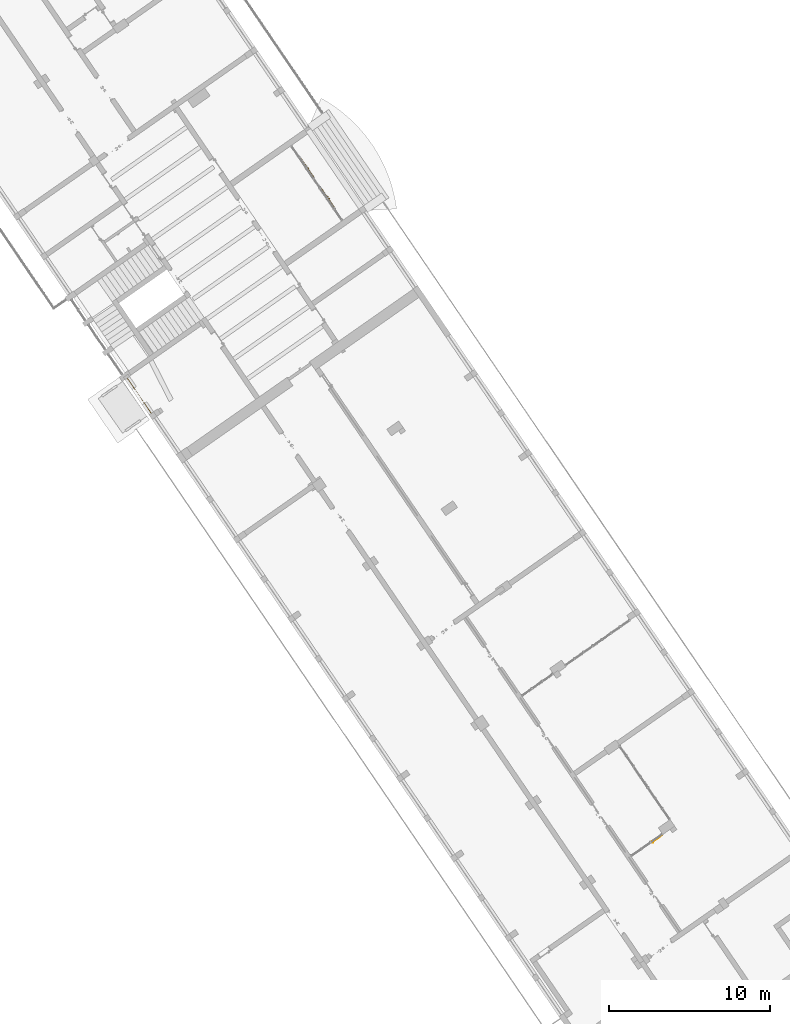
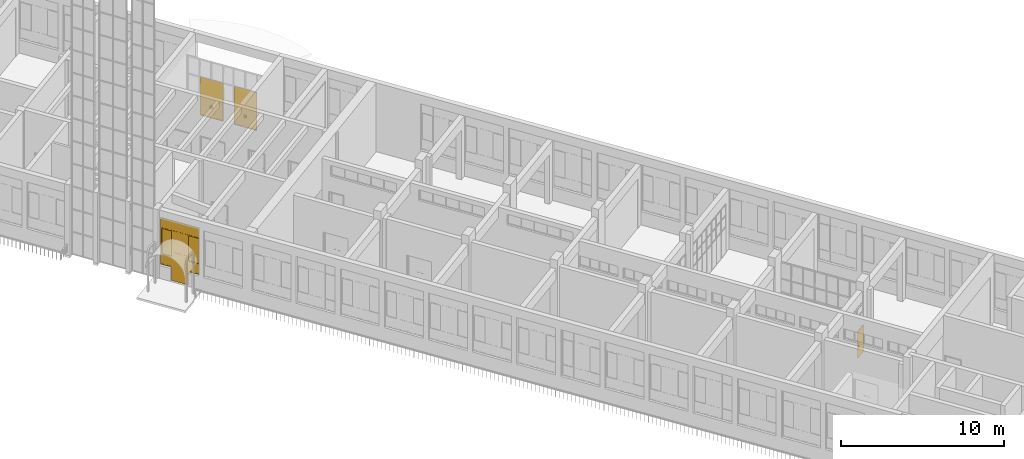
# One storey, part 154 of 157: 3 doors, 1 window, 2 elements without a shape of their own.
"""IFC2X3 building model written with IfcOpenShell, lengths in millimetres."""

from ifc_helpers import new_model, entity, si_unit, converted_unit, derived_unit, direction, frame, frame_2d, origin, origin_2d_with_axis, place, context, subcontext, project, spatial, polyline, circle_curve, parameter, trimmed, segment, composite_curve, rectangle, outline, extrude, source, transform, mapped, material, material_list, type_object, type_shapes, element, aggregate, save


model = new_model("IFC2X3")

# Units and contexts
model_context = context("Model", 3, precision=0.01, world=origin(), true_north=direction((6.123031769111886e-17, 1.0)))
body_context = subcontext(model_context, "Body", "Model", "MODEL_VIEW")
ifc_project = project(units=[si_unit("LENGTHUNIT", "METRE", prefix="MILLI"), si_unit("AREAUNIT", "SQUARE_METRE"), si_unit("VOLUMEUNIT", "CUBIC_METRE"), converted_unit("PLANEANGLEUNIT", "DEGREE", entity("IfcRatioMeasure", 0.017453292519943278), si_unit("PLANEANGLEUNIT", "RADIAN"), dimensions=[0, 0, 0, 0, 0, 0, 0]), si_unit("MASSUNIT", "GRAM", prefix="KILO"), derived_unit("MASSDENSITYUNIT", [(si_unit("MASSUNIT", "GRAM", prefix="KILO"), 1), (si_unit("LENGTHUNIT", "METRE"), -3)]), derived_unit("MOMENTOFINERTIAUNIT", [(si_unit("LENGTHUNIT", "METRE"), 4)]), si_unit("TIMEUNIT", "SECOND"), si_unit("FREQUENCYUNIT", "HERTZ"), si_unit("THERMODYNAMICTEMPERATUREUNIT", "DEGREE_CELSIUS"), derived_unit("THERMALTRANSMITTANCEUNIT", [(si_unit("MASSUNIT", "GRAM", prefix="KILO"), 1), (si_unit("THERMODYNAMICTEMPERATUREUNIT", "KELVIN"), -1), (si_unit("TIMEUNIT", "SECOND"), -3)]), derived_unit("THERMALCONDUCTANCEUNIT", [(si_unit("MASSUNIT", "GRAM", prefix="KILO"), 1), (si_unit("LENGTHUNIT", "METRE"), 1), (si_unit("THERMODYNAMICTEMPERATUREUNIT", "KELVIN"), -1), (si_unit("TIMEUNIT", "SECOND"), -3)]), derived_unit("VOLUMETRICFLOWRATEUNIT", [(si_unit("LENGTHUNIT", "METRE"), 3), (si_unit("TIMEUNIT", "SECOND"), -1)]), derived_unit("MASSFLOWRATEUNIT", [(si_unit("MASSUNIT", "GRAM", prefix="KILO"), 1), (si_unit("TIMEUNIT", "SECOND"), -1)]), derived_unit("ROTATIONALFREQUENCYUNIT", [(si_unit("TIMEUNIT", "SECOND"), -1)]), si_unit("ELECTRICCURRENTUNIT", "AMPERE"), si_unit("ELECTRICVOLTAGEUNIT", "VOLT"), si_unit("POWERUNIT", "WATT"), converted_unit("FORCEUNIT", "KIP", entity("IfcRatioMeasure", 2.088543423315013e-05), si_unit("FORCEUNIT", "NEWTON"), dimensions=[1, 1, -2, 0, 0, 0, 0]), si_unit("ILLUMINANCEUNIT", "LUX"), si_unit("LUMINOUSFLUXUNIT", "LUMEN"), si_unit("LUMINOUSINTENSITYUNIT", "CANDELA"), derived_unit("USERDEFINED", [(si_unit("MASSUNIT", "GRAM", prefix="KILO"), -1), (si_unit("LENGTHUNIT", "METRE"), -2), (si_unit("TIMEUNIT", "SECOND"), 3), (si_unit("LUMINOUSFLUXUNIT", "LUMEN"), 1)]), derived_unit("USERDEFINED", [(si_unit("MASSUNIT", "GRAM", prefix="KILO"), 1), (si_unit("LENGTHUNIT", "METRE"), 3), (si_unit("TIMEUNIT", "SECOND"), -3), (si_unit("ELECTRICCURRENTUNIT", "AMPERE"), -2)]), derived_unit("USERDEFINED", [(si_unit("LENGTHUNIT", "METRE"), 2), (si_unit("TIMEUNIT", "SECOND"), -2)]), derived_unit("SOUNDPOWERUNIT", [(si_unit("MASSUNIT", "GRAM", prefix="KILO"), 1), (si_unit("LENGTHUNIT", "METRE"), 2), (si_unit("TIMEUNIT", "SECOND"), -3)]), derived_unit("SOUNDPRESSUREUNIT", [(si_unit("MASSUNIT", "GRAM", prefix="KILO"), 1), (si_unit("LENGTHUNIT", "METRE"), -1), (si_unit("TIMEUNIT", "SECOND"), -2)]), derived_unit("LINEARVELOCITYUNIT", [(si_unit("LENGTHUNIT", "METRE"), 1), (si_unit("TIMEUNIT", "SECOND"), -1)]), si_unit("PRESSUREUNIT", "PASCAL"), derived_unit("USERDEFINED", [(si_unit("LENGTHUNIT", "METRE"), -2), (si_unit("MASSUNIT", "GRAM", prefix="KILO"), 1), (si_unit("TIMEUNIT", "SECOND"), -2)]), derived_unit("LINEARFORCEUNIT", [(si_unit("MASSUNIT", "GRAM", prefix="KILO"), 1), (si_unit("LENGTHUNIT", "METRE"), 1), (si_unit("TIMEUNIT", "SECOND"), -2), (si_unit("LENGTHUNIT", "METRE"), -1)]), derived_unit("PLANARFORCEUNIT", [(si_unit("MASSUNIT", "GRAM", prefix="KILO"), 1), (si_unit("LENGTHUNIT", "METRE"), 1), (si_unit("TIMEUNIT", "SECOND"), -2), (si_unit("LENGTHUNIT", "METRE"), -2)]), derived_unit("SPECIFICHEATCAPACITYUNIT", [(si_unit("LENGTHUNIT", "METRE"), 2), (si_unit("TIMEUNIT", "SECOND"), -2), (si_unit("THERMODYNAMICTEMPERATUREUNIT", "KELVIN"), -1)]), derived_unit("VAPORPERMEABILITYUNIT", [(si_unit("TIMEUNIT", "SECOND"), 1), (si_unit("LENGTHUNIT", "METRE"), -1)]), derived_unit("DYNAMICVISCOSITYUNIT", [(si_unit("MASSUNIT", "GRAM", prefix="KILO"), 1), (si_unit("LENGTHUNIT", "METRE"), -1), (si_unit("TIMEUNIT", "SECOND"), -1)]), derived_unit("THERMALEXPANSIONCOEFFICIENTUNIT", [(si_unit("THERMODYNAMICTEMPERATUREUNIT", "KELVIN"), -1)])], contexts=[model_context])

# Site, building, storey
site_placement = place(None, frame((0.0, 0.0, 0.0), z_axis=(0.0, 0.0, 1.0), x_axis=(0.8191520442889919, 0.5735764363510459, 0.0)))
site = spatial("IfcSite", under=ifc_project, at=site_placement, Name="Default", CompositionType="ELEMENT")
building_placement = place(site_placement, origin())
building = spatial("IfcBuilding", under=site, at=building_placement, CompositionType="ELEMENT")
storey_placement = place(building_placement, origin())
storey = spatial("IfcBuildingStorey", under=building, at=storey_placement, Name="1.EG +0.00", CompositionType="ELEMENT", Elevation=-4.331468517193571e-12)

# Curtain wall, door
curtain_wall_type_1 = type_object("IfcCurtainWallType", Name="Curtain Wall:Curtain_Wall_CJC_Int5", PredefinedType="NOTDEFINED")
curtain_wall_1_placement = place(storey_placement, origin())
curtain_wall_1 = element("IfcCurtainWall", 1, at=curtain_wall_1_placement, inside=storey, type_object=curtain_wall_type_1, Name="Curtain Wall:Curtain_Wall_CJC_Int5", ObjectType="Curtain Wall:Curtain_Wall_CJC_Int5")
ifc_material_1 = material(Name="Glass")
ifc_material_2 = material(Name="Aluminum")
ifc_material_list_1 = material_list([ifc_material_1, ifc_material_2])
door_style_1 = type_object("IfcDoorStyle", Name="M_Door-Curtain-Wall-Single-Glass:M_Door-Curtain-Wall-Single-Glass", ConstructionType="NOTDEFINED", OperationType="NOTDEFINED", ParameterTakesPrecedence=False, Sizeable=False, material=ifc_material_list_1)
shared_shape_1 = source(origin(), body_context, "Body", "SweptSolid", [
    extrude(rectangle(XDim=12.700000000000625, YDim=824.9999999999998, at=frame_2d((-3.9968028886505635e-15, 0.0), x_axis=(1.0, 0.0))), frame((0.0, 44.450000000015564, 0.0), z_axis=(0.0, 0.0, 1.0), x_axis=(0.0, -1.0, 0.0)), (0.0, 0.0, 1.0), 2024.9999999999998),
    extrude(rectangle(XDim=25.399999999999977, YDim=50.8, at=frame_2d((-3.375077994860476e-14, 0.0), x_axis=(1.0, 0.0))), frame((323.5999999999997, 12.700000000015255, 762.0)), (0.0, 0.0, 1.0), 228.60000000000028),
    extrude(rectangle(XDim=25.399999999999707, YDim=50.80000000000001, at=frame_2d((3.375077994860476e-14, -8.881784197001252e-15), x_axis=(1.0, 0.0))), frame((323.5999999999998, 76.20000000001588, 762.0), z_axis=(0.0, 0.0, 1.0), x_axis=(-1.0, 0.0, 0.0)), (0.0, 0.0, 1.0), 228.60000000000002),
])
type_shapes(door_style_1, [shared_shape_1])
door_1_placement = place(curtain_wall_1_placement, frame((-212449.68433611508, 67171.35891435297, 50.0), z_axis=(0.0, 0.0, 1.0), x_axis=(-1.0, 0.0, 0.0)))
door_1 = element("IfcDoor", 2, at=door_1_placement, type_object=door_style_1, material=ifc_material_list_1, Name="M_Door-Curtain-Wall-Single-Glass:M_Door-Curtain-Wall-Single-Glass", ObjectType="M_Door-Curtain-Wall-Single-Glass:M_Door-Curtain-Wall-Single-Glass", OverallHeight=2024.9999999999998, OverallWidth=825.0000000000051, context=body_context, shape_type="MappedRepresentation", body=[
    mapped(shared_shape_1, transform((0.0, 0.0, 0.0), scale=1.0)),
])
aggregate(curtain_wall_1, [door_1])

# Curtain wall, doors
curtain_wall_type_2 = type_object("IfcCurtainWallType", Name="Curtain Wall:Curtain_Wall_CJC_ENTR1", PredefinedType="NOTDEFINED")
curtain_wall_2_placement = place(storey_placement, origin())
curtain_wall_2 = element("IfcCurtainWall", 3, at=curtain_wall_2_placement, inside=storey, type_object=curtain_wall_type_2, Name="Curtain Wall:Curtain_Wall_CJC_ENTR1", ObjectType="Curtain Wall:Curtain_Wall_CJC_ENTR1")
ifc_material_list_2 = material_list([ifc_material_2, ifc_material_1])
door_style_2 = type_object("IfcDoorStyle", Name="M_Door-Curtain-Wall-Double-Storefront:M_Door-Curtain-Wall-Double-Storefront", ConstructionType="NOTDEFINED", OperationType="NOTDEFINED", ParameterTakesPrecedence=False, Sizeable=False, material=ifc_material_list_2)
shared_shape_2 = source(origin(), body_context, "Body", "SweptSolid", [
    extrude(outline(polyline([(-1437.5, -387.11467502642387), (1437.5, -387.11467502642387), (1437.5, 387.1146750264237), (-1437.5, 387.11467502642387), (-1437.5, -387.11467502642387)]), holes=[polyline([(-1380.35, 329.96467502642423), (1380.35, 329.96467502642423), (1380.35, -329.96467502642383), (-1380.35, -329.96467502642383), (-1380.35, 329.96467502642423)])]), frame((387.8853249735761, 60.0, 1437.5), z_axis=(0.0, -1.0, 0.0), x_axis=(0.0, 0.0, -1.0)), (0.0, 0.0, 1.0), 44.45000000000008),
    extrude(outline(polyline([(-387.09157497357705, -1437.5), (387.09157497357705, -1437.5), (387.09157497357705, 1437.5), (-387.0915749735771, 1437.5), (-387.09157497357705, -1437.5)]), holes=[polyline([(-329.9415749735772, -1380.35), (-329.94157497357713, 1380.35), (329.9415749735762, 1380.35), (329.9415749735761, -1380.35), (-329.9415749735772, -1380.35)])]), frame((-387.9084250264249, 60.0, 1437.5), z_axis=(0.0, -1.0, 0.0), x_axis=(-1.0, 0.0, 0.0)), (0.0, 0.0, 1.0), 44.45000000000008),
    extrude(rectangle(XDim=659.9293500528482, YDim=19.049999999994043, at=frame_2d((0.0, -2.6645352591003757e-15), x_axis=(1.0, 0.0))), frame((387.88532497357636, 37.774999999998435, 57.150000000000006)), (0.0, 0.0, 1.0), 2760.7),
    extrude(rectangle(XDim=659.8831499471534, YDim=19.049999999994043, at=frame_2d((-5.684341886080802e-14, -2.6645352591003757e-15), x_axis=(1.0, 0.0))), frame((-387.90842502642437, 37.774999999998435, 57.150000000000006)), (0.0, 0.0, 1.0), 2760.7),
    extrude(outline(composite_curve([segment(polyline([(0.8750000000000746, -22.224999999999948), (29.124999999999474, -22.224999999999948)]), True, "CONTINUOUS"), segment(polyline([(29.124999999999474, -22.224999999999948), (29.124999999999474, -15.87499999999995)]), True, "CONTINUOUS"), segment(polyline([(29.124999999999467, -15.87499999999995), (0.8750000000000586, -15.874999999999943)]), True, "CONTINUOUS"), segment(trimmed(circle_curve(frame_2d((0.8750000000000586, -3.175000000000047), x_axis=(0.0, 1.0)), 12.699999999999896), [parameter(90.00000000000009)], [parameter(180.00000000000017)], True, "PARAMETER"), False, "CONTINUOUS"), segment(polyline([(-11.82499999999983, -3.175000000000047), (-11.82499999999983, 41.27499999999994)]), True, "CONTINUOUS"), segment(polyline([(-11.82499999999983, 41.27499999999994), (-18.174999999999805, 41.27499999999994)]), True, "CONTINUOUS"), segment(polyline([(-18.174999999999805, 41.27499999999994), (-18.174999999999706, -3.175000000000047)]), True, "CONTINUOUS"), segment(trimmed(circle_curve(frame_2d((0.8750000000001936, -3.175000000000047), x_axis=(0.0, 1.0)), 19.049999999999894), [parameter(90.00000000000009)], [parameter(179.99999999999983)], True, "PARAMETER"), True, "CONTINUOUS")], self_intersect=False)), frame((-53.99810005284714, -13.57499999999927, 762.0), z_axis=(0.0, 0.0, 1.0), x_axis=(0.0, 1.0, 0.0)), (0.0, 0.0, 1.0), 228.5999999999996),
    extrude(outline(composite_curve([segment(trimmed(circle_curve(frame_2d((3.1750000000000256, -0.8749999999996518), x_axis=(1.0, 0.0)), 19.04999999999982), [parameter(3.5622212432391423e-13)], [parameter(90.00000000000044)], True, "PARAMETER"), True, "CONTINUOUS"), segment(polyline([(3.1750000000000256, 18.17500000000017), (-41.27499999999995, 18.175000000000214)]), True, "CONTINUOUS"), segment(polyline([(-41.27499999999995, 18.175000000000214), (-41.27499999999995, 11.82500000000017)]), True, "CONTINUOUS"), segment(polyline([(-41.27499999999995, 11.82500000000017), (3.175000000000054, 11.82500000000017)]), True, "CONTINUOUS"), segment(trimmed(circle_curve(frame_2d((3.175000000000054, -0.8749999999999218), x_axis=(1.0, 0.0)), 12.700000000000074), [parameter(359.99999999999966)], [parameter(89.99999999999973)], True, "PARAMETER"), False, "CONTINUOUS"), segment(polyline([(15.875000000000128, -0.8749999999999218), (15.87499999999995, -29.125000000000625)]), True, "CONTINUOUS"), segment(polyline([(15.87499999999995, -29.125000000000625), (22.2249999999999, -29.125000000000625)]), True, "CONTINUOUS"), segment(polyline([(22.2249999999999, -29.125000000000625), (22.2249999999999, -0.8749999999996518)]), True, "CONTINUOUS")], self_intersect=False)), frame((53.95189994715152, -13.575000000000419, 762.0), z_axis=(0.0, 0.0, 1.0), x_axis=(-1.0, 0.0, 0.0)), (0.0, 0.0, 1.0), 228.5999999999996),
    extrude(outline(composite_curve([segment(trimmed(circle_curve(frame_2d((-3.174999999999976, 1.5874999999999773), x_axis=(1.0, 0.0)), 19.049999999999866), [parameter(180.00000000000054)], [parameter(270.00000000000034)], True, "PARAMETER"), True, "CONTINUOUS"), segment(polyline([(-3.174999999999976, -17.462499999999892), (41.275, -17.462500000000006)]), True, "CONTINUOUS"), segment(polyline([(41.275, -17.462500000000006), (41.275, -11.112500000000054)]), True, "CONTINUOUS"), segment(polyline([(41.275, -11.112500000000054), (-3.174999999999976, -11.112500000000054)]), True, "CONTINUOUS"), segment(trimmed(circle_curve(frame_2d((-3.174999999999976, 1.5874999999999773), x_axis=(1.0, 0.0)), 12.700000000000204), [parameter(179.9999999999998)], [parameter(269.99999999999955)], True, "PARAMETER"), False, "CONTINUOUS"), segment(polyline([(-15.875000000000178, 1.5874999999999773), (-15.875000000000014, 26.987500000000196)]), True, "CONTINUOUS"), segment(polyline([(-15.875000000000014, 26.987500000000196), (-22.224999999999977, 26.987500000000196)]), True, "CONTINUOUS"), segment(polyline([(-22.224999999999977, 26.987500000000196), (-22.224999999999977, 1.5874999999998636)]), True, "CONTINUOUS")], self_intersect=False)), frame((-53.998100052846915, 86.98750000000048, 762.0), z_axis=(0.0, 0.0, 1.0), x_axis=(-1.0, 0.0, 0.0)), (0.0, 0.0, 1.0), 228.60000000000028),
    extrude(outline(composite_curve([segment(polyline([(1.5875000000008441, -22.225000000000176), (26.987499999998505, -22.225000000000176)]), True, "CONTINUOUS"), segment(polyline([(26.987499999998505, -22.225000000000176), (26.987499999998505, -15.875000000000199)]), True, "CONTINUOUS"), segment(polyline([(26.987499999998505, -15.875000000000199), (1.5875000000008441, -15.874999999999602)]), True, "CONTINUOUS"), segment(trimmed(circle_curve(frame_2d((1.5875000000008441, -3.1749999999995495), x_axis=(0.0, -1.0)), 12.700000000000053), [parameter(269.9999999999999)], [parameter(0.0)], True, "PARAMETER"), False, "CONTINUOUS"), segment(polyline([(-11.112499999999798, -3.1749999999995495), (-11.112499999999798, 41.27499999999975)]), True, "CONTINUOUS"), segment(polyline([(-11.112499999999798, 41.27499999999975), (-17.462499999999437, 41.27499999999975)]), True, "CONTINUOUS"), segment(polyline([(-17.462499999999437, 41.27499999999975), (-17.462499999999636, -3.1749999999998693)]), True, "CONTINUOUS"), segment(trimmed(circle_curve(frame_2d((1.5875000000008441, -3.1749999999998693), x_axis=(0.0, -1.0)), 19.050000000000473), [parameter(269.9999999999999)], [parameter(0.0)], True, "PARAMETER"), True, "CONTINUOUS")], self_intersect=False)), frame((53.95189994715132, 86.98749999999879, 762.0), z_axis=(0.0, 0.0, 1.0), x_axis=(0.0, -1.0, 0.0)), (0.0, 0.0, 1.0), 228.60000000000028),
])
type_shapes(door_style_2, [shared_shape_2])
door_2_placement = place(curtain_wall_2_placement, frame((-206399.9748636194, 111531.22463251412, 50.0), z_axis=(0.0, 0.0, 1.0), x_axis=(-0.012719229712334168, -0.9999191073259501, 0.0)))
door_2 = element("IfcDoor", 4, at=door_2_placement, type_object=door_style_2, material=ifc_material_list_2, Name="M_Door-Curtain-Wall-Double-Storefront:M_Door-Curtain-Wall-Double-Storefront", ObjectType="M_Door-Curtain-Wall-Double-Storefront:M_Door-Curtain-Wall-Double-Storefront", OverallHeight=2875.0000000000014, OverallWidth=1550.0000000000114, context=body_context, shape_type="MappedRepresentation", body=[
    mapped(shared_shape_2, transform((0.0, 0.0, 0.0), scale=1.0)),
])
door_3_placement = place(curtain_wall_2_placement, frame((-206370.6570391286, 113836.03817520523, 50.0), z_axis=(0.0, 0.0, 1.0), x_axis=(-0.012719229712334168, -0.9999191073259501, 0.0)))
door_3 = element("IfcDoor", 5, at=door_3_placement, type_object=door_style_2, material=ifc_material_list_2, Name="M_Door-Curtain-Wall-Double-Storefront:M_Door-Curtain-Wall-Double-Storefront", ObjectType="M_Door-Curtain-Wall-Double-Storefront:M_Door-Curtain-Wall-Double-Storefront", OverallHeight=2875.0000000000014, OverallWidth=1550.0000000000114, context=body_context, shape_type="MappedRepresentation", body=[
    mapped(shared_shape_2, transform((0.0, 0.0, 0.0), scale=1.0)),
])
aggregate(curtain_wall_2, [door_2, door_3])

# Window
ifc_material_3 = material(Name="<Unnamed>")
ifc_material_list_3 = material_list([ifc_material_1, ifc_material_3])
window_style = type_object("IfcWindowStyle", Name="Fenster_EingangWest_CJC:Fenster_EingangWest_CJC", ConstructionType="NOTDEFINED", OperationType="NOTDEFINED", ParameterTakesPrecedence=False, Sizeable=False, material=ifc_material_list_3)
shared_shape_3 = source(origin(), body_context, "Body", "SweptSolid", [
    extrude(rectangle(XDim=9.999999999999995, YDim=700.0000000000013, at=frame_2d((0.0, -5.684341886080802e-14), x_axis=(1.0, 0.0))), frame((400.0, 175.0, 2750.0), z_axis=(0.0, 0.0, 1.0), x_axis=(0.0, 1.0, 0.0)), (0.0, 0.0, 1.0), 700.0000000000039),
    extrude(rectangle(XDim=9.999999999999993, YDim=1050.00000000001, at=origin_2d_with_axis()), frame((1325.0, 175.0, -1000.0), z_axis=(0.0, 0.0, 1.0), x_axis=(0.0, 1.0, 0.0)), (0.0, 0.0, 1.0), 2099.999999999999),
    extrude(rectangle(XDim=9.999999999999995, YDim=699.9999999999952, at=origin_2d_with_axis()), frame((2250.0, 175.0, 50.0), z_axis=(0.0, 0.0, 1.0), x_axis=(0.0, 1.0, 0.0)), (0.0, 0.0, 1.0), 700.0),
    extrude(rectangle(XDim=9.999999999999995, YDim=700.0000000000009, at=frame_2d((0.0, -1.4210854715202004e-13), x_axis=(1.0, 0.0))), frame((2250.0, 175.0, 2750.0), z_axis=(0.0, 0.0, 1.0), x_axis=(0.0, 1.0, 0.0)), (0.0, 0.0, 1.0), 699.9999999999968),
    extrude(rectangle(XDim=9.999999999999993, YDim=1050.0000000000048, at=frame_2d((0.0, -1.1368683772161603e-13), x_axis=(1.0, 0.0))), frame((1325.0, 175.0, 2750.0), z_axis=(0.0, 0.0, 1.0), x_axis=(0.0, 1.0, 0.0)), (0.0, 0.0, 1.0), 699.9999999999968),
    extrude(rectangle(XDim=9.999999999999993, YDim=1050.00000000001, at=origin_2d_with_axis()), frame((1325.0, 175.0, 1150.0), z_axis=(0.0, 0.0, 1.0), x_axis=(0.0, 1.0, 0.0)), (0.0, 0.0, 1.0), 1549.9999999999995),
    extrude(rectangle(XDim=9.999999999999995, YDim=700.0000000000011, at=origin_2d_with_axis()), frame((400.0, 175.0, 50.0), z_axis=(0.0, 0.0, 1.0), x_axis=(0.0, 1.0, 0.0)), (0.0, 0.0, 1.0), 699.9999999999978),
    extrude(outline(polyline([(-1325.0, -3121.428571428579), (1325.0, -3121.428571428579), (1325.0, 378.5714285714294), (575.0, 378.5714285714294), (575.0, 1378.5714285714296), (525.0, 1378.5714285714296), (525.0, 328.5714285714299), (525.0, -721.4285714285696), (-525.0, -721.4285714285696), (-525.0, 328.5714285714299), (-525.0, 1378.5714285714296), (-575.0, 1378.5714285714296), (-575.0, 378.5714285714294), (-1325.0, 378.5714285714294), (-1325.0, -3121.428571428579)]), holes=[polyline([(575.0, -3071.428571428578), (575.0, -2371.428571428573), (1275.0, -2371.428571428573), (1275.0, -3071.428571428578), (575.0, -3071.428571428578)]), polyline([(-525.0, -2371.428571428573), (525.0, -2371.428571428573), (525.0, -3071.428571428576), (-525.0, -3071.428571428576), (-525.0, -2371.428571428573)]), polyline([(-1275.0, -3071.428571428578), (-1275.0, -2371.428571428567), (-575.0, -2371.428571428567), (-575.0, -3071.428571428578), (-1275.0, -3071.428571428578)]), polyline([(-575.0, -2321.4285714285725), (-1275.0, -2321.4285714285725), (-1275.0, -421.42857142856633), (-575.0, -421.42857142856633), (-575.0, -2321.4285714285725)]), polyline([(1275.0, -2321.4285714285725), (575.0, -2321.4285714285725), (575.0, -421.4285714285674), (1275.0, -421.4285714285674), (1275.0, -2321.4285714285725)]), polyline([(-1275.0, -371.42857142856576), (-1275.0, 328.57142857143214), (-575.0, 328.57142857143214), (-575.0, -371.42857142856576), (-1275.0, -371.42857142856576)]), polyline([(1275.0, 328.57142857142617), (1275.0, -371.42857142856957), (575.0, -371.42857142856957), (575.0, 328.57142857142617), (1275.0, 328.57142857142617)]), polyline([(525.0, -771.4285714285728), (525.0, -2321.4285714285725), (-525.0, -2321.4285714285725), (-525.0, -771.4285714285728), (525.0, -771.4285714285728)])]), frame((1325.0, 160.0, 378.5714285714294), z_axis=(0.0, 1.0, 0.0), x_axis=(1.0, 0.0, 0.0)), (0.0, 0.0, 1.0), 30.000000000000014),
    extrude(rectangle(XDim=9.999999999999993, YDim=670.0000000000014, at=frame_2d((2.220446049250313e-15, -5.684341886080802e-14), x_axis=(1.0, 0.0))), frame((400.0, 145.0, 815.0), z_axis=(0.0, 0.0, 1.0), x_axis=(0.0, 1.0, 0.0)), (0.0, 0.0, 1.0), 1870.0000000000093),
    extrude(rectangle(XDim=9.999999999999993, YDim=670.0000000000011, at=frame_2d((0.0, -1.4210854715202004e-13), x_axis=(1.0, 0.0))), frame((2250.0, 145.0, 815.0), z_axis=(0.0, 0.0, 1.0), x_axis=(0.0, 1.0, 0.0)), (0.0, 0.0, 1.0), 1870.0000000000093),
    extrude(outline(polyline([(-365.0, -965.0), (365.0, -965.0), (365.0, 965.0), (-365.0, 965.0), (-365.0, -965.0)]), holes=[polyline([(-335.0, -935.0), (-335.0, 935.0), (335.0, 935.0), (335.0, -935.0), (-335.0, -935.0)])]), frame((2250.0, 130.0, 1750.0), z_axis=(0.0, 1.0, 0.0), x_axis=(1.0, 0.0, 0.0)), (0.0, 0.0, 1.0), 29.999999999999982),
    extrude(outline(polyline([(-365.0, -965.0), (365.0, -965.0), (365.0, 965.0), (-365.0, 965.0), (-365.0, -965.0)]), holes=[polyline([(-335.0, -935.0), (-335.0, 935.0), (335.0, 935.0), (335.0, -935.0), (-335.0, -935.0)])]), frame((400.0, 130.0, 1750.0), z_axis=(0.0, 1.0, 0.0), x_axis=(1.0, 0.0, 0.0)), (0.0, 0.0, 1.0), 29.999999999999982),
])
type_shapes(window_style, [shared_shape_3])
window_placement = place(storey_placement, frame((-222860.6839386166, 106865.35663254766, 1000.0), z_axis=(0.0, 0.0, 1.0), x_axis=(0.012729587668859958, 0.9999189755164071, 0.0)))
element("IfcWindow", 6, at=window_placement, inside=storey, type_object=window_style, material=ifc_material_list_3, Name="Fenster_EingangWest_CJC:Fenster_EingangWest_CJC", ObjectType="Fenster_EingangWest_CJC:Fenster_EingangWest_CJC", OverallHeight=4500.000000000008, OverallWidth=2650.0, context=body_context, shape_type="MappedRepresentation", body=[
    mapped(shared_shape_3, transform((0.0, 0.0, 0.0), scale=1.0)),
])

save(model, "model.ifc")
